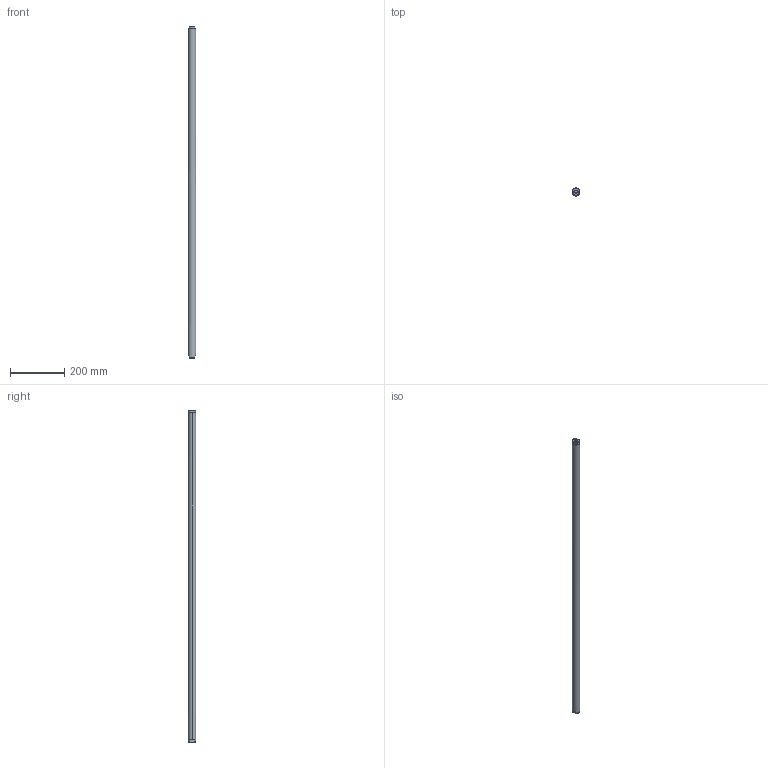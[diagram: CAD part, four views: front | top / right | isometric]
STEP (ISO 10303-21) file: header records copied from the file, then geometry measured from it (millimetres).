
FILE_DESCRIPTION (( 'STEP AP214' ), '1' );
FILE_NAME ('PL01-28x1220!1140.STEP', '2004-06-16T08:14:27', ( 'Mitarbeiter' ), ( 'Firma' ), 'SwSTEP 2.0', 'SolidWorks 2001287', '' );
FILE_SCHEMA (( 'AUTOMOTIVE_DESIGN' ));
Length unit declared in the file: millimetre
Products named in the file (1): PL01-28x1220!1140
Bounding box: 28 x 28 x 1220 mm (x, y, z)
Volume: 747817.8 mm3; surface area: 109273.6 mm2
Topology: 1 solids, 1 shells, 41 faces, 104 edges, 68 vertices
Faces by surface type: plane 15, cylinder 10, cone 8, torus 8
Entity records: 1353 total; most frequent: CARTESIAN_POINT 374, ORIENTED_EDGE 208, DIRECTION 192, EDGE_CURVE 104, AXIS2_PLACEMENT_3D 78, VERTEX_POINT 68, EDGE_LOOP 44, ADVANCED_FACE 41
